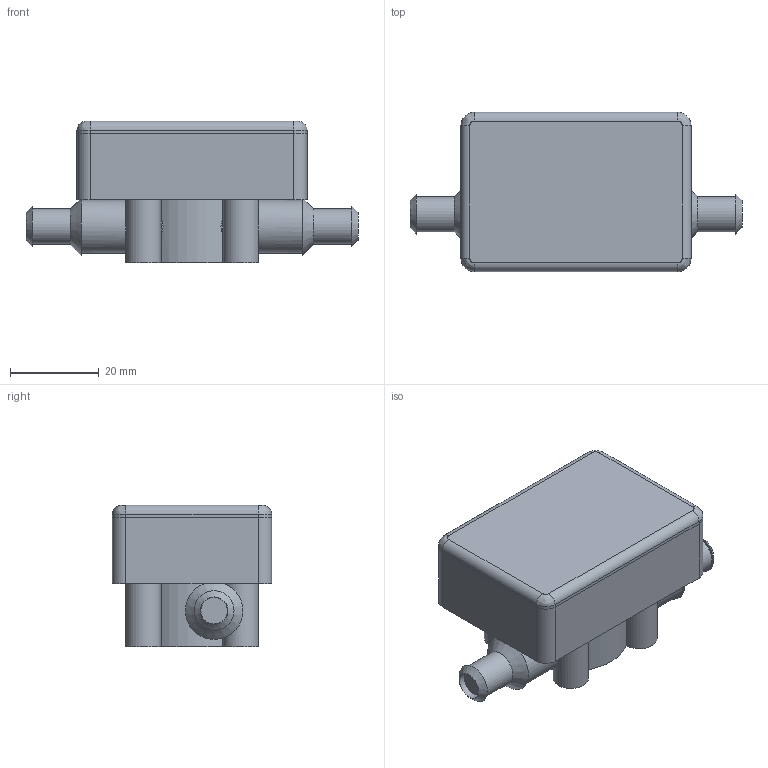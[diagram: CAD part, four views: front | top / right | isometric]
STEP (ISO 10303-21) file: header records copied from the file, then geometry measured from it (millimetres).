
FILE_DESCRIPTION(/* description */ (''),/* implementation_level */ '2;1');
FILE_NAME(/* name */ 'C:\Users\stevem\Desktop\Display 800_Shrinkwrap.stp',/* time_stamp */ '2016-11-01T11:06:43+00:00',/* author */ ('Stevem'),/* organization */ (''),/* preprocessor_version */ 'ST-DEVELOPER v15.2',/* originating_system */ 'Autodesk Inventor 2014',/* authorisation */ '');
FILE_SCHEMA (('AUTOMOTIVE_DESIGN { 1 0 10303 214 3 1 1 }'));
Length unit declared in the file: inch
Products named in the file (1): Display 800_Shrinkwrap
Bounding box: 75 x 36 x 31.95 mm (x, y, z)
Surface area: 11492 mm2 (no closed solid volume)
Topology: 0 solids, 8 shells, 50 faces, 127 edges, 82 vertices
Faces by surface type: cylinder 27, plane 15, cone 4, bspline 4
Full cylindrical faces by diameter (mm): 6 x1, 8 x2, 12 x2
Entity records: 1634 total; most frequent: CARTESIAN_POINT 407, DIRECTION 258, ORIENTED_EDGE 196, EDGE_CURVE 114, AXIS2_PLACEMENT_3D 105, VERTEX_POINT 78, EDGE_LOOP 59, CIRCLE 58
